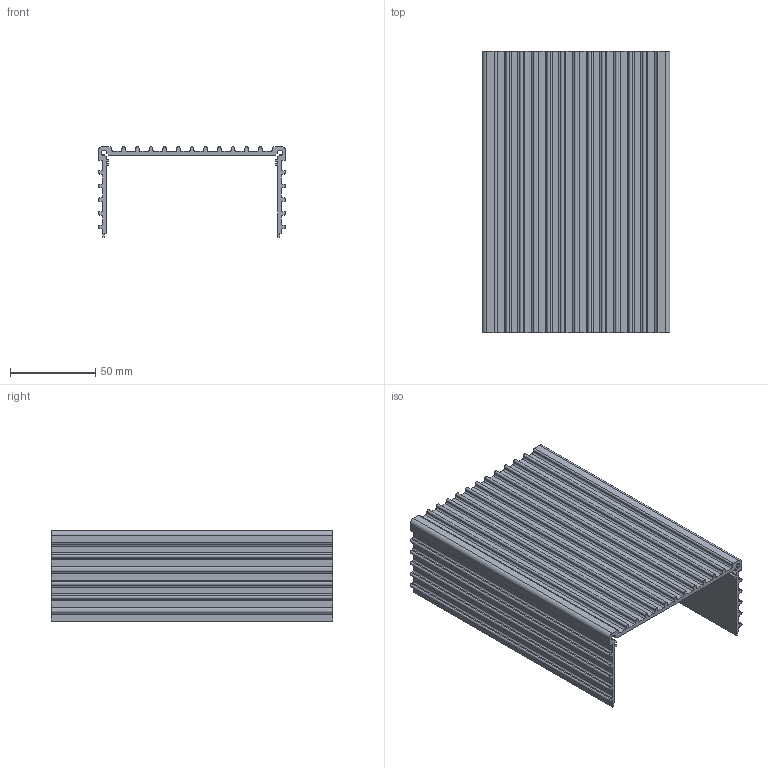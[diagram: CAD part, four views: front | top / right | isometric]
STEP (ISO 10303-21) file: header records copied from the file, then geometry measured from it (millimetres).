
FILE_DESCRIPTION (( 'STEP AP214' ), '1' );
FILE_NAME ('12030-profil.STEP', '2019-10-29T08:03:41', ( '' ), ( '' ), 'SwSTEP 2.0', 'SolidWorks 2019', '' );
FILE_SCHEMA (( 'AUTOMOTIVE_DESIGN' ));
Length unit declared in the file: millimetre
Products named in the file (1): 12030-profil
Bounding box: 110 x 165 x 53 mm (x, y, z)
Volume: 101258.1 mm3; surface area: 88893.9 mm2
Topology: 1 solids, 1 shells, 196 faces, 582 edges, 388 vertices
Faces by surface type: plane 105, cylinder 91
Entity records: 6642 total; most frequent: CARTESIAN_POINT 1167, ORIENTED_EDGE 1164, DIRECTION 1158, EDGE_CURVE 582, LINE 400, VECTOR 400, VERTEX_POINT 388, AXIS2_PLACEMENT_3D 379
